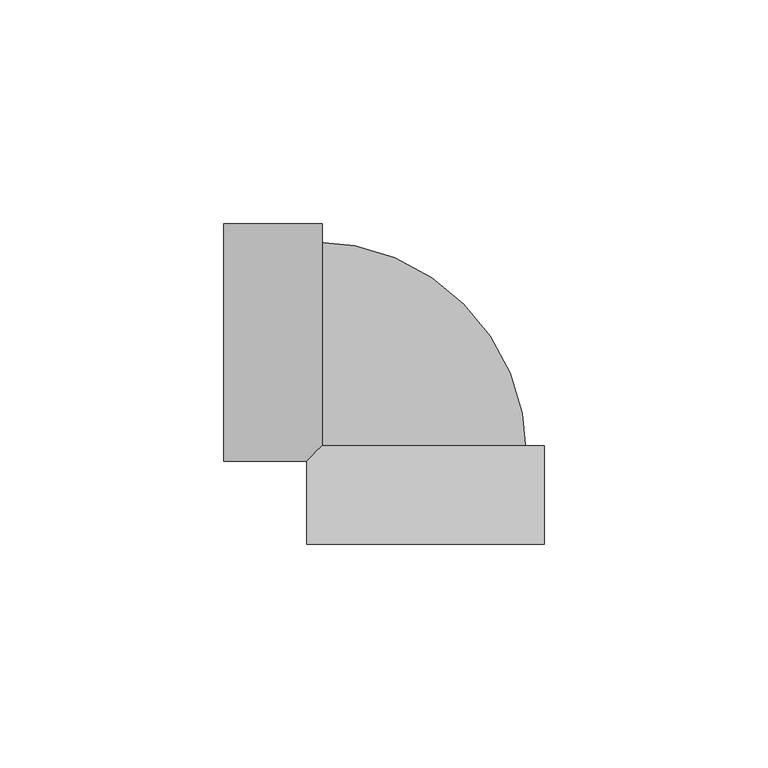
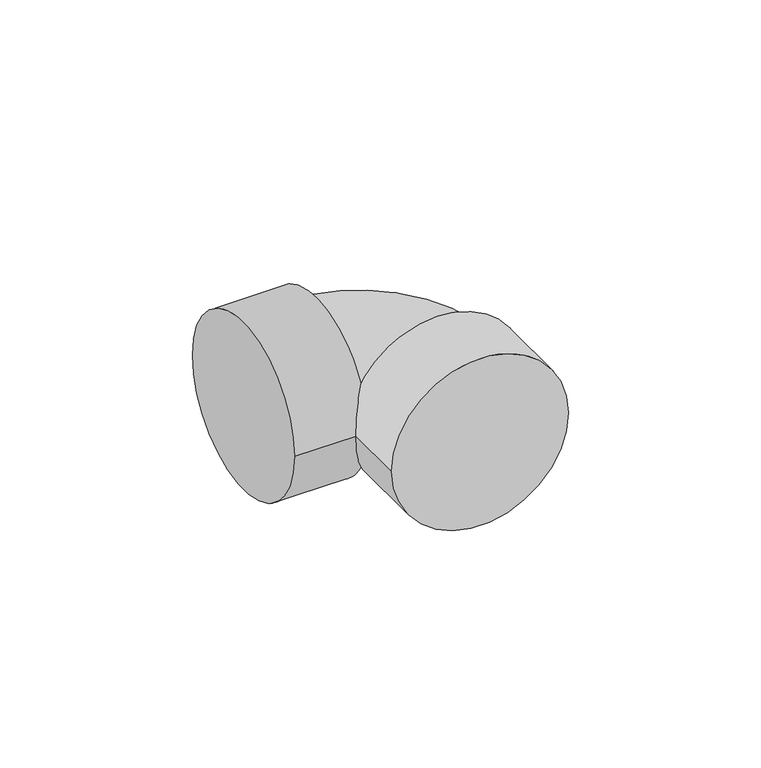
"""IFC4 building model written with IfcOpenShell, lengths in millimetres: pipe fitting geometry, 01011001 : Coudes à 90º."""

from ifc_helpers import new_model, si_unit, point, frame, origin, place, context, project, spatial, circle_curve, ellipse_curve, trimmed, source, transform, mapped, element, save
from ifc_brep_helpers import plane_surface, cylinder_surface, revolved_surface, advanced_brep


def pipe_fitting_79bb09ca(model_context):
    return source(origin(), model_context, "Body", "AdvancedBrep", [
        advanced_brep(
        [(-26.5, -45.0, 0.0), (26.5, -45.0, 0.0), (-23.0, -23.0, -13.1624466), (-23.0, -23.0, 13.1624466), (26.5, -23.0, 0.0), (-26.5, -26.5, 0.0), (-45.0, 26.5, 0.0), (-45.0, -26.5, 0.0), (-23.0, 26.5, 0.0)],
        [
            (0, 1, circle_curve(frame((0.0, -45.0, 0.0), z_axis=(0.0, -1.0, 0.0), x_axis=(1.0, 0.0, 0.0)), 26.5)),
            (1, 0, circle_curve(frame((0.0, -45.0, 0.0), z_axis=(0.0, -1.0, 0.0), x_axis=(1.0, 0.0, 0.0)), 26.5)),
            (2, 3),
            (3, 4, circle_curve(frame((0.0, -23.0, 0.0), z_axis=(0.0, 1.0, 0.0), x_axis=(1.0, 0.0, 0.0)), 26.5)),
            (4, 2, circle_curve(frame((0.0, -23.0, 0.0), z_axis=(0.0, 1.0, 0.0), x_axis=(1.0, 0.0, 0.0)), 26.5)),
            (1, 4),
            (3, 5, ellipse_curve(frame((0.0, 0.0, 0.0), z_axis=(0.7071067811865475, -0.7071067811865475, 0.0), x_axis=(-0.7071067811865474, -0.7071067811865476, 0.0)), 37.4766594, 26.5)),
            (5, 0),
            (5, 2, ellipse_curve(frame((0.0, 0.0, 0.0), z_axis=(0.7071067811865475, -0.7071067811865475, 0.0), x_axis=(-0.7071067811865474, -0.7071067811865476, 0.0)), 37.4766594, 26.5)),
            (6, 7, circle_curve(frame((-45.0, 0.0, 0.0), z_axis=(-1.0, 0.0, 0.0), x_axis=(0.0, -1.0, 0.0)), 26.5)),
            (7, 6, circle_curve(frame((-45.0, 0.0, 0.0), z_axis=(-1.0, 0.0, 0.0), x_axis=(0.0, -1.0, 0.0)), 26.5)),
            (8, 3, circle_curve(frame((-23.0, 0.0, 0.0), z_axis=(1.0, 0.0, 0.0), x_axis=(0.0, -1.0, 0.0)), 26.5)),
            (2, 8, circle_curve(frame((-23.0, 0.0, 0.0), z_axis=(1.0, 0.0, 0.0), x_axis=(0.0, -1.0, 0.0)), 26.5)),
            (7, 5),
            (8, 6),
        ],
        [
            plane_surface(frame((0.0, -45.0, 0.0), z_axis=(0.0, -1.0, 0.0), x_axis=(0.0, 0.0, 1.0))),
            plane_surface(frame((0.0, -23.0, 0.0), z_axis=(0.0, 1.0, 0.0), x_axis=(0.0, 0.0, 1.0))),
            cylinder_surface(frame((0.0, -45.0, 0.0), z_axis=(0.0, -1.0, 0.0), x_axis=(1.0, 0.0, 0.0)), 26.5),
            plane_surface(frame((-45.0, 0.0, 0.0), z_axis=(-1.0, 0.0, 0.0), x_axis=(0.0, 0.0, 1.0))),
            plane_surface(frame((-23.0, 0.0, 0.0), z_axis=(1.0, 0.0, 0.0), x_axis=(0.0, 0.0, 1.0))),
            cylinder_surface(frame((-45.0, 0.0, 0.0), z_axis=(-1.0, 0.0, 0.0), x_axis=(0.0, -1.0, 0.0)), 26.5),
        ],
        [
            (0, [[1, 2]]),
            (1, [[3, 4, 5]]),
            (2, [[6, -4, 7, 8, -2]]),
            (2, [[-8, 9, -5, -6, -1]]),
            (3, [[10, 11]]),
            (4, [[12, -3, 13]]),
            (5, [[14, -7, -12, 15, -11]]),
            (5, [[-15, -13, -9, -14, -10]]),
        ],
    ),
        advanced_brep(
        [(-22.525, -25.0, 0.0), (22.525, -25.0, 0.0), (-25.0, -22.525, 0.0), (-25.0, 22.525, 0.0)],
        [
            (0, 1, circle_curve(frame((0.0, -25.0, 0.0), z_axis=(0.0, -1.0, 0.0), x_axis=(1.0, 0.0, 0.0)), 22.525)),
            (1, 0, circle_curve(frame((0.0, -25.0, 0.0), z_axis=(0.0, -1.0, 0.0), x_axis=(1.0, 0.0, 0.0)), 22.525)),
            (2, 3, circle_curve(frame((-25.0, 0.0, 0.0), z_axis=(-1.0, 0.0, 0.0), x_axis=(0.0, 1.0, 0.0)), 22.525)),
            (3, 2, circle_curve(frame((-25.0, 0.0, 0.0), z_axis=(-1.0, 0.0, 0.0), x_axis=(0.0, 1.0, 0.0)), 22.525)),
            (2, 0, circle_curve(frame((-25.0, -25.0, 0.0), z_axis=(0.0, 0.0, -1.0), x_axis=(1.0, 0.0, 0.0)), 2.475)),
            (1, 3, circle_curve(frame((-25.0, -25.0, 0.0), z_axis=(0.0, 0.0, 1.0), x_axis=(1.0, 0.0, 0.0)), 47.525)),
        ],
        [
            plane_surface(frame((0.0, -25.0, 0.0), z_axis=(0.0, -1.0, 0.0), x_axis=(0.0, 0.0, 1.0))),
            plane_surface(frame((-25.0, 0.0, 0.0), z_axis=(-1.0, 0.0, 0.0), x_axis=(0.0, 0.0, 1.0))),
            revolved_surface(trimmed(ellipse_curve(frame((0.0, -25.0, 0.0), z_axis=(0.0, 1.0, 0.0), x_axis=(1.0, 0.0, 0.0)), 22.525, 22.525), [point((-22.525, -25.0, 0.0))], [point((22.525, -25.0, 0.0))], True, "CARTESIAN"), (-25.0, -25.0, 0.0), (0.0, 0.0, -1.0)),
            revolved_surface(trimmed(ellipse_curve(frame((0.0, -25.0, 0.0), z_axis=(0.0, 1.0, 0.0), x_axis=(1.0, 0.0, 0.0)), 22.525, 22.525), [point((22.525, -25.0, 0.0))], [point((-22.525, -25.0, 0.0))], True, "CARTESIAN"), (-25.0, -25.0, 0.0), (0.0, 0.0, -1.0)),
        ],
        [
            (0, [[1, 2]]),
            (1, [[3, 4]]),
            (2, [[-3, 5, -2, 6]]),
            (3, [[-4, -6, -1, -5]]),
        ],
    ),
    ])


if __name__ == "__main__":
    model = new_model("IFC4")
    model_context = context("Model", 3, world=origin())
    ifc_project = project(units=[si_unit("LENGTHUNIT", "METRE", prefix="MILLI")], contexts=[model_context])
    site = spatial("IfcSite", under=ifc_project)
    building = spatial("IfcBuilding", under=site)
    placement = place(None, origin())
    pipe_fitting_shape = pipe_fitting_79bb09ca(model_context)
    element("IfcPipeFitting", 1, ObjectType="01011001 : Coudes à 90º", at=placement, inside=building, context=model_context, shape_type="MappedRepresentation", body=[
        mapped(pipe_fitting_shape, transform((0.0, 0.0, 0.0), x_axis=(1.0, 0.0, 0.0), y_axis=(0.0, 1.0, 0.0), z_axis=(0.0, 0.0, 1.0))),
    ])
    save(model, "model.ifc")
